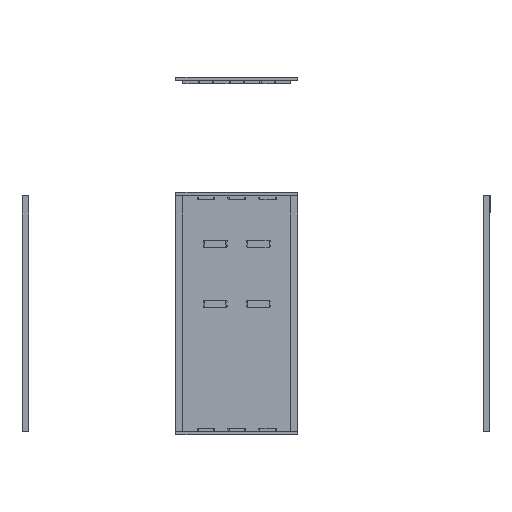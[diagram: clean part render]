
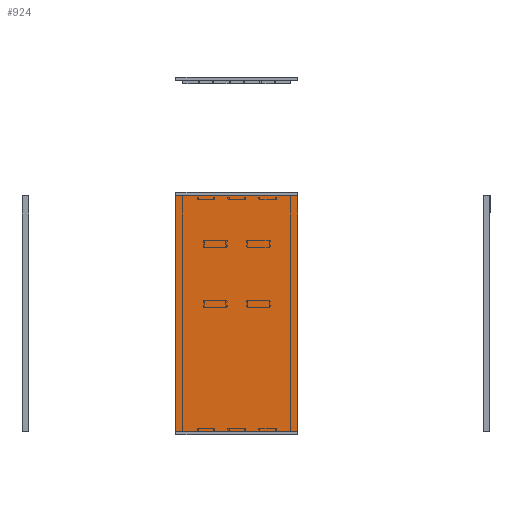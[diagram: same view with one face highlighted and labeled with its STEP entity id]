
A CAD part, left-side view. The second image highlights one B-rep face of the part: STEP entity #924.
In plain terms, the highlighted planar face has unit normal (-1, 0, 0).
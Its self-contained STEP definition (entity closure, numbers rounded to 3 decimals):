
#924=ADVANCED_FACE('',(#2187),#22258,.T.);
#2187=FACE_OUTER_BOUND('',#3515,.T.);
#3515=EDGE_LOOP('',(#8269,#8270,#8271,#8272,#8273));
#8269=ORIENTED_EDGE('',*,*,#13184,.F.);
#8270=ORIENTED_EDGE('',*,*,#13183,.F.);
#8271=ORIENTED_EDGE('',*,*,#13182,.F.);
#8272=ORIENTED_EDGE('',*,*,#13181,.F.);
#8273=ORIENTED_EDGE('',*,*,#13179,.F.);
#13179=EDGE_CURVE('',#20377,#20376,#18812,.T.);
#13181=EDGE_CURVE('',#20376,#20378,#18814,.T.);
#13182=EDGE_CURVE('',#20378,#20379,#18815,.T.);
#13183=EDGE_CURVE('',#20379,#20380,#18816,.T.);
#13184=EDGE_CURVE('',#20380,#20377,#18817,.T.);
#18812=B_SPLINE_CURVE_WITH_KNOTS('',1,(#35518,#35519),.UNSPECIFIED.,.F.,
 .F.,(2,2),(-2563.059,-2505.059),.UNSPECIFIED.);
#18814=B_SPLINE_CURVE_WITH_KNOTS('',1,(#35522,#35523),.UNSPECIFIED.,.F.,
 .F.,(2,2),(-2505.059,-1928.529),.UNSPECIFIED.);
#18815=B_SPLINE_CURVE_WITH_KNOTS('',1,(#35524,#35525),.UNSPECIFIED.,.F.,
 .F.,(2,2),(-1928.529,-892.529),.UNSPECIFIED.);
#18816=B_SPLINE_CURVE_WITH_KNOTS('',1,(#35526,#35527),.UNSPECIFIED.,.F.,
 .F.,(2,2),(-892.529,-316.),.UNSPECIFIED.);
#18817=B_SPLINE_CURVE_WITH_KNOTS('',1,(#35528,#35529),.UNSPECIFIED.,.F.,
 .F.,(2,2),(-316.,662.),.UNSPECIFIED.);
#20376=VERTEX_POINT('',#35364);
#20377=VERTEX_POINT('',#35365);
#20378=VERTEX_POINT('',#35366);
#20379=VERTEX_POINT('',#35367);
#20380=VERTEX_POINT('',#35368);
#22258=PLANE('',#23927);
#23927=AXIS2_PLACEMENT_3D('',#35285,#26526,$);
#26526=DIRECTION('',(-1.,0.,0.));
#35285=CARTESIAN_POINT('',(0.,0.,621.));
#35364=CARTESIAN_POINT('',(0.,0.,621.));
#35365=CARTESIAN_POINT('',(0.,58.,621.));
#35366=CARTESIAN_POINT('',(0.,0.,9.));
#35367=CARTESIAN_POINT('',(0.,316.,9.));
#35368=CARTESIAN_POINT('',(0.,316.,621.));
#35518=CARTESIAN_POINT('',(0.,58.,621.));
#35519=CARTESIAN_POINT('',(0.,0.,621.));
#35522=CARTESIAN_POINT('',(0.,0.,621.));
#35523=CARTESIAN_POINT('',(0.,0.,9.));
#35524=CARTESIAN_POINT('',(0.,0.,9.));
#35525=CARTESIAN_POINT('',(0.,316.,9.));
#35526=CARTESIAN_POINT('',(0.,316.,9.));
#35527=CARTESIAN_POINT('',(0.,316.,621.));
#35528=CARTESIAN_POINT('',(0.,316.,621.));
#35529=CARTESIAN_POINT('',(0.,58.,621.));
